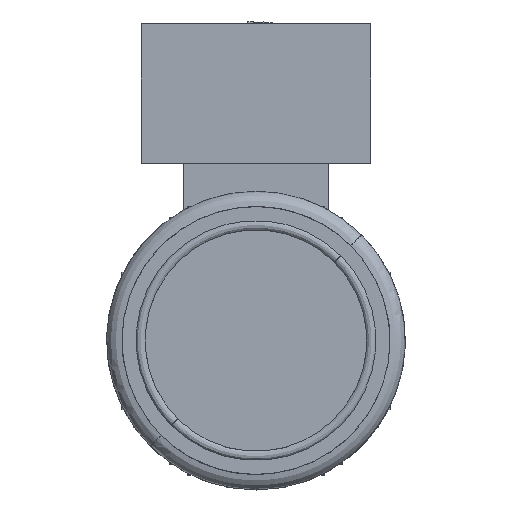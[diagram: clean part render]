
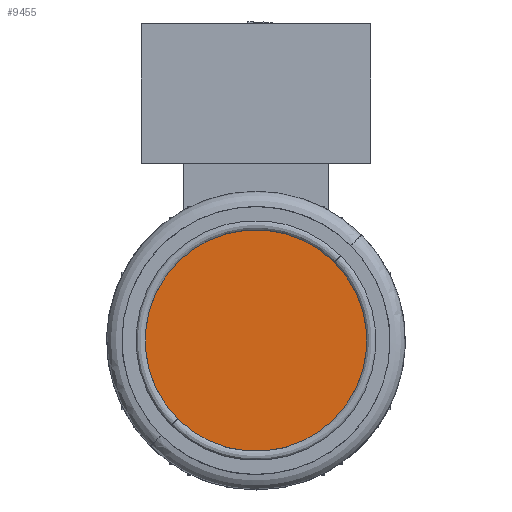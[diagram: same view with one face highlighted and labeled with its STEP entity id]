
A CAD part, top view. The second image highlights one B-rep face of the part: STEP entity #9455.
In plain terms, the highlighted planar face has unit normal (0, 0, 1).
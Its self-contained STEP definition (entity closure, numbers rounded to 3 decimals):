
#50 = EDGE_CURVE ( 'NONE', #10029, #12480, #8014, .T. ) ;
#444 = CARTESIAN_POINT ( 'NONE',  ( -46.246, 46.246, 158.5 ) ) ;
#1946 = DIRECTION ( 'NONE',  ( 0., 0., -1. ) ) ;
#2043 = AXIS2_PLACEMENT_3D ( 'NONE', #13888, #7155, #3681 ) ;
#3316 = EDGE_CURVE ( 'NONE', #12480, #10029, #7552, .T. ) ;
#3681 = DIRECTION ( 'NONE',  ( 0., 1., 0. ) ) ;
#4328 = ORIENTED_EDGE ( 'NONE', *, *, #3316, .F. ) ;
#5330 = ORIENTED_EDGE ( 'NONE', *, *, #50, .F. ) ;
#5571 = EDGE_LOOP ( 'NONE', ( #5330, #4328 ) ) ;
#7155 = DIRECTION ( 'NONE',  ( 0., 0., -1. ) ) ;
#7552 = CIRCLE ( 'NONE', #13186, 65.289 ) ;
#8014 = CIRCLE ( 'NONE', #2043, 65.289 ) ;
#8469 = PLANE ( 'NONE',  #9957 ) ;
#8761 = DIRECTION ( 'NONE',  ( 0., 1., 0. ) ) ;
#9455 = ADVANCED_FACE ( 'NONE', ( #14106 ), #8469, .F. ) ;
#9753 = CARTESIAN_POINT ( 'NONE',  ( 0., 0., 158.5 ) ) ;
#9799 = CARTESIAN_POINT ( 'NONE',  ( 46.166, 46.166, 158.5 ) ) ;
#9957 = AXIS2_PLACEMENT_3D ( 'NONE', #444, #1946, #8761 ) ;
#10029 = VERTEX_POINT ( 'NONE', #16100 ) ;
#10049 = DIRECTION ( 'NONE',  ( 0., 1., 0. ) ) ;
#12480 = VERTEX_POINT ( 'NONE', #9799 ) ;
#13186 = AXIS2_PLACEMENT_3D ( 'NONE', #9753, #18363, #10049 ) ;
#13888 = CARTESIAN_POINT ( 'NONE',  ( 0., 0., 158.5 ) ) ;
#14106 = FACE_OUTER_BOUND ( 'NONE', #5571, .T. ) ;
#16100 = CARTESIAN_POINT ( 'NONE',  ( -46.166, -46.166, 158.5 ) ) ;
#18363 = DIRECTION ( 'NONE',  ( 0., 0., -1. ) ) ;
